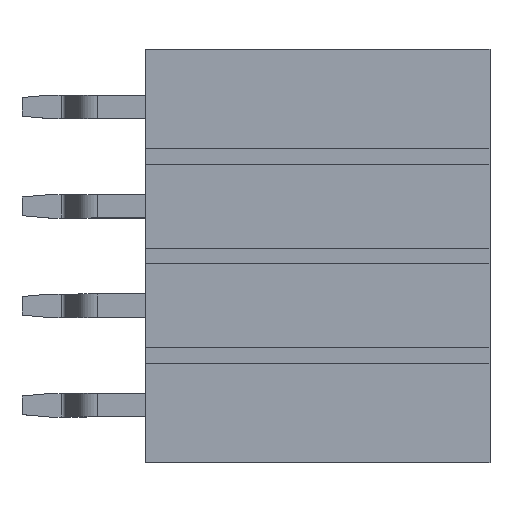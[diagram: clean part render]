
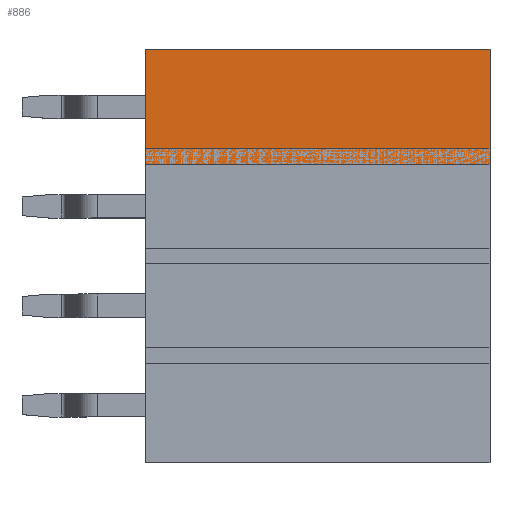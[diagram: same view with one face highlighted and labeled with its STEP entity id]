
A CAD part, top view. The second image highlights one B-rep face of the part: STEP entity #886.
In plain terms, the highlighted planar face has unit normal (0, 0, 1).
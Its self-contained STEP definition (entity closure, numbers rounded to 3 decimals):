
#622 = VERTEX_POINT('',#623);
#623 = CARTESIAN_POINT('',(11.45,-1.47,2.65));
#629 = EDGE_CURVE('',#630,#622,#632,.T.);
#630 = VERTEX_POINT('',#631);
#631 = CARTESIAN_POINT('',(11.45,1.47,2.65));
#632 = LINE('',#633,#634);
#633 = CARTESIAN_POINT('',(11.45,1.47,2.65));
#634 = VECTOR('',#635,1.);
#635 = DIRECTION('',(0.,-1.,0.));
#779 = VERTEX_POINT('',#780);
#780 = CARTESIAN_POINT('',(2.65,1.47,2.65));
#788 = EDGE_CURVE('',#630,#779,#789,.T.);
#789 = LINE('',#790,#791);
#790 = CARTESIAN_POINT('',(11.45,1.47,2.65));
#791 = VECTOR('',#792,1.);
#792 = DIRECTION('',(-1.,0.,0.));
#835 = VERTEX_POINT('',#836);
#836 = CARTESIAN_POINT('',(2.65,-1.47,2.65));
#844 = EDGE_CURVE('',#622,#835,#845,.T.);
#845 = LINE('',#846,#847);
#846 = CARTESIAN_POINT('',(11.45,-1.47,2.65));
#847 = VECTOR('',#848,1.);
#848 = DIRECTION('',(-1.,0.,0.));
#886 = ADVANCED_FACE('',(#887),#898,.F.);
#887 = FACE_BOUND('',#888,.F.);
#888 = EDGE_LOOP('',(#889,#890,#891,#897));
#889 = ORIENTED_EDGE('',*,*,#629,.T.);
#890 = ORIENTED_EDGE('',*,*,#844,.T.);
#891 = ORIENTED_EDGE('',*,*,#892,.F.);
#892 = EDGE_CURVE('',#779,#835,#893,.T.);
#893 = LINE('',#894,#895);
#894 = CARTESIAN_POINT('',(2.65,1.47,2.65));
#895 = VECTOR('',#896,1.);
#896 = DIRECTION('',(0.,-1.,0.));
#897 = ORIENTED_EDGE('',*,*,#788,.F.);
#898 = PLANE('',#899);
#899 = AXIS2_PLACEMENT_3D('',#900,#901,#902);
#900 = CARTESIAN_POINT('',(11.45,1.47,2.65));
#901 = DIRECTION('',(0.,0.,-1.));
#902 = DIRECTION('',(-1.,-0.,0.));
